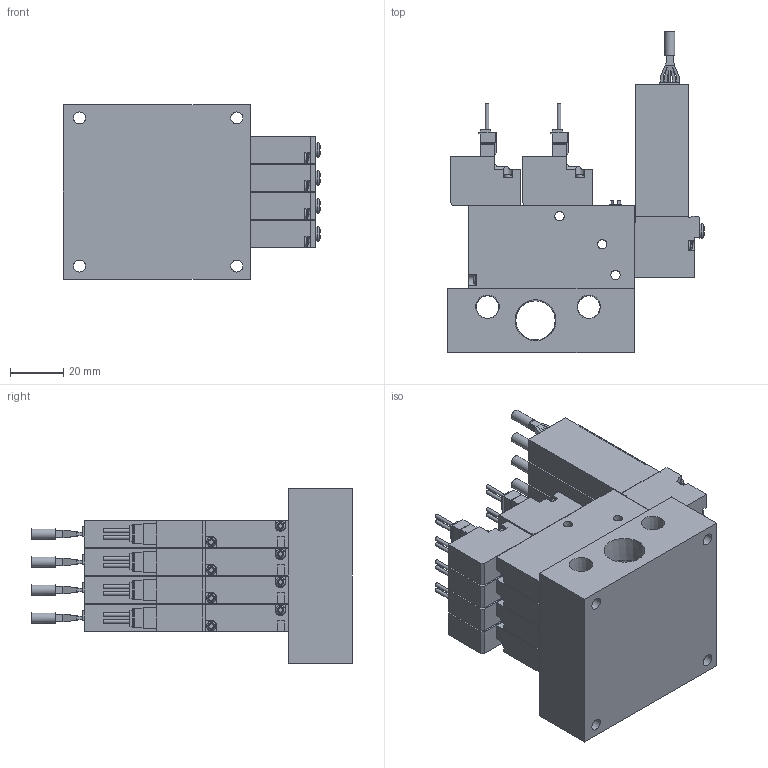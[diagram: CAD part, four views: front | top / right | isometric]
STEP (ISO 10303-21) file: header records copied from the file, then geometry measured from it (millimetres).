
FILE_DESCRIPTION(('STEP AP203'),'1');
FILE_NAME('BMPV42MV9.V9P5A(B)404.stp','2025-04-30T01:49:41',(' '),(' '),'Spatial InterOp 3D',' ',' ');
FILE_SCHEMA(('CONFIG_CONTROL_DESIGN'));
Length unit declared in the file: millimetre
Products named in the file (5): BMPV42MV9.V9P5A(B)404; VACUUM VALVE FUNCTION MPV42-A; VACUUM SENSOR MPV42-V9; UNIT-MPV42; MPV42-M40R-1
Assembly tree (17 placements, depth 2):
  BMPV42MV9.V9P5A(B)404
    VACUUM VALVE FUNCTION MPV42-A  x8
    VACUUM SENSOR MPV42-V9  x4
    UNIT-MPV42  x4
    MPV42-M40R-1
Bounding box: 96.35 x 120.3 x 65.5 mm (x, y, z)
Volume: 262934.2 mm3; surface area: 87705.6 mm2
Topology: 17 solids, 17 shells, 1539 faces, 4169 edges, 2760 vertices
Faces by surface type: plane 1206, cylinder 271, cone 22, sphere 20, torus 20
Full cylindrical faces by diameter (mm): 1.4 x16, 1.8 x4, 2.2 x8, 3 x16, 3.5 x44, 3.8 x4, 4.134 x8, 4.5 x4, 5 x4, 5.5 x4, 8.441 x2, 14.744 x1
Entity records: 9567 total; most frequent: CARTESIAN_POINT 1864, DIRECTION 1515, ORIENTED_EDGE 1474, EDGE_CURVE 737, LINE 551, VECTOR 551, VERTEX_POINT 513, AXIS2_PLACEMENT_3D 482
